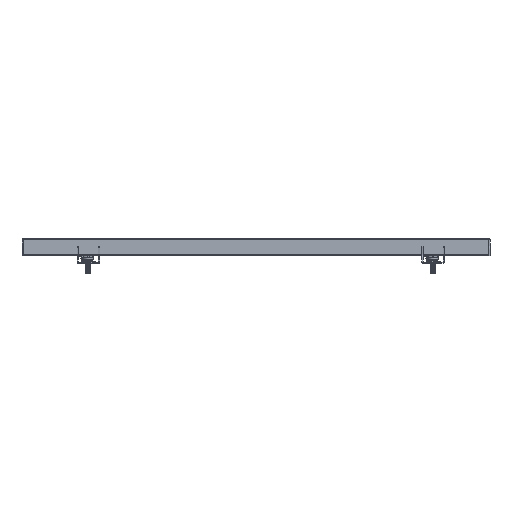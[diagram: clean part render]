
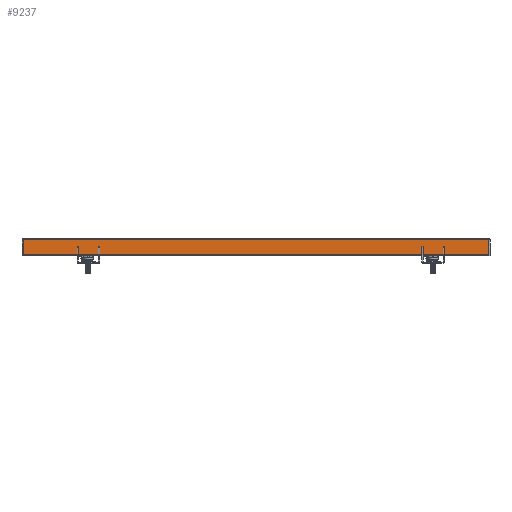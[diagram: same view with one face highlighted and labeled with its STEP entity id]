
A CAD part, front view. The second image highlights one B-rep face of the part: STEP entity #9237.
In plain terms, the highlighted planar face has unit normal (0, -1, 0).
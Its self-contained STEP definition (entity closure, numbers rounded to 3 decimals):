
#5912=DIRECTION('',(0.,0.,1.));
#5913=VECTOR('',#5912,17.);
#5914=CARTESIAN_POINT('',(270.,-107.5,-17.));
#5915=LINE('',#5914,#5913);
#5924=DIRECTION('',(1.,0.,0.));
#5925=VECTOR('',#5924,540.);
#5926=CARTESIAN_POINT('',(-270.,-107.5,-17.));
#5927=LINE('',#5926,#5925);
#6206=DIRECTION('',(0.,0.,-1.));
#6207=VECTOR('',#6206,17.);
#6208=CARTESIAN_POINT('',(-270.,-107.5,0.));
#6209=LINE('',#6208,#6207);
#6649=DIRECTION('',(-1.,0.,0.));
#6650=VECTOR('',#6649,540.);
#6651=CARTESIAN_POINT('',(270.,-107.5,0.));
#6652=LINE('',#6651,#6650);
#7912=CARTESIAN_POINT('',(270.,-107.5,0.));
#7913=VERTEX_POINT('',#7912);
#7914=CARTESIAN_POINT('',(270.,-107.5,-17.));
#7915=VERTEX_POINT('',#7914);
#7916=CARTESIAN_POINT('',(-270.,-107.5,-17.));
#7917=VERTEX_POINT('',#7916);
#7918=CARTESIAN_POINT('',(-270.,-107.5,0.));
#7919=VERTEX_POINT('',#7918);
#9223=CARTESIAN_POINT('',(-270.,-107.5,1.5));
#9224=DIRECTION('',(0.,-1.,0.));
#9225=DIRECTION('',(-1.,0.,0.));
#9226=AXIS2_PLACEMENT_3D('',#9223,#9224,#9225);
#9227=PLANE('',#9226);
#9229=ORIENTED_EDGE('',*,*,#9228,.F.);
#9231=ORIENTED_EDGE('',*,*,#9230,.F.);
#9233=ORIENTED_EDGE('',*,*,#9232,.F.);
#9234=ORIENTED_EDGE('',*,*,#9207,.F.);
#9235=EDGE_LOOP('',(#9229,#9231,#9233,#9234));
#9236=FACE_OUTER_BOUND('',#9235,.F.);
#9207=EDGE_CURVE('',#7915,#7913,#5915,.T.);
#9228=EDGE_CURVE('',#7917,#7915,#5927,.T.);
#9230=EDGE_CURVE('',#7919,#7917,#6209,.T.);
#9232=EDGE_CURVE('',#7913,#7919,#6652,.T.);
#9237=ADVANCED_FACE('',(#9236),#9227,.T.);
